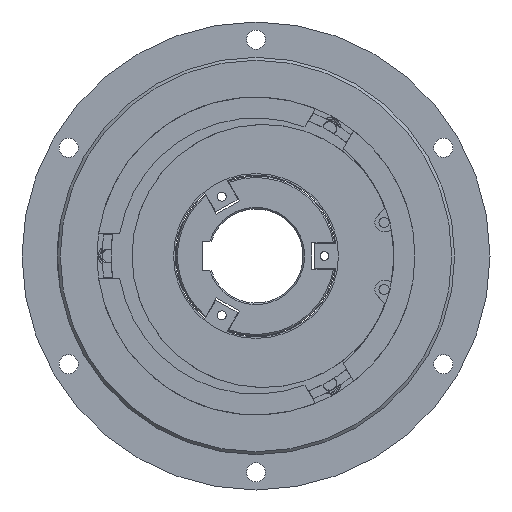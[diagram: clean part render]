
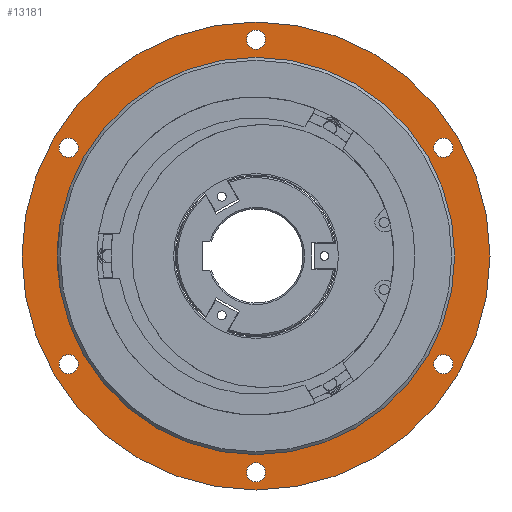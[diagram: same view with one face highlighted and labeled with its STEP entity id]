
A CAD part, left-side view. The second image highlights one B-rep face of the part: STEP entity #13181.
In plain terms, the highlighted planar face has unit normal (-1, 0, 0).
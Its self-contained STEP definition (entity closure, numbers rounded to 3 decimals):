
#343=FACE_BOUND('',#1752,.T.);
#344=FACE_BOUND('',#1753,.T.);
#345=FACE_BOUND('',#1754,.T.);
#346=FACE_BOUND('',#1755,.T.);
#347=FACE_BOUND('',#1756,.T.);
#348=FACE_BOUND('',#1757,.T.);
#349=FACE_BOUND('',#1758,.T.);
#1024=FACE_OUTER_BOUND('',#1751,.T.);
#1751=EDGE_LOOP('',(#9204,#9205));
#1752=EDGE_LOOP('',(#9206));
#1753=EDGE_LOOP('',(#9207));
#1754=EDGE_LOOP('',(#9208));
#1755=EDGE_LOOP('',(#9209));
#1756=EDGE_LOOP('',(#9210));
#1757=EDGE_LOOP('',(#9211));
#1758=EDGE_LOOP('',(#9212,#9213));
#2729=CIRCLE('',#14065,79.5);
#2730=CIRCLE('',#14066,79.5);
#2731=CIRCLE('',#14067,3.25);
#2732=CIRCLE('',#14068,3.25);
#2733=CIRCLE('',#14069,3.25);
#2734=CIRCLE('',#14070,3.25);
#2735=CIRCLE('',#14071,3.25);
#2736=CIRCLE('',#14072,3.25);
#2737=CIRCLE('',#14073,67.5);
#2738=CIRCLE('',#14074,67.5);
#5295=VERTEX_POINT('',#33384);
#5296=VERTEX_POINT('',#33385);
#5297=VERTEX_POINT('',#33388);
#5298=VERTEX_POINT('',#33390);
#5299=VERTEX_POINT('',#33392);
#5300=VERTEX_POINT('',#33394);
#5301=VERTEX_POINT('',#33396);
#5302=VERTEX_POINT('',#33398);
#5303=VERTEX_POINT('',#33400);
#5304=VERTEX_POINT('',#33401);
#6794=EDGE_CURVE('',#5295,#5296,#2729,.T.);
#6795=EDGE_CURVE('',#5296,#5295,#2730,.T.);
#6796=EDGE_CURVE('',#5297,#5297,#2731,.T.);
#6797=EDGE_CURVE('',#5298,#5298,#2732,.T.);
#6798=EDGE_CURVE('',#5299,#5299,#2733,.T.);
#6799=EDGE_CURVE('',#5300,#5300,#2734,.T.);
#6800=EDGE_CURVE('',#5301,#5301,#2735,.T.);
#6801=EDGE_CURVE('',#5302,#5302,#2736,.T.);
#6802=EDGE_CURVE('',#5303,#5304,#2737,.T.);
#6803=EDGE_CURVE('',#5304,#5303,#2738,.T.);
#9204=ORIENTED_EDGE('',*,*,#6794,.F.);
#9205=ORIENTED_EDGE('',*,*,#6795,.F.);
#9206=ORIENTED_EDGE('',*,*,#6796,.T.);
#9207=ORIENTED_EDGE('',*,*,#6797,.T.);
#9208=ORIENTED_EDGE('',*,*,#6798,.T.);
#9209=ORIENTED_EDGE('',*,*,#6799,.T.);
#9210=ORIENTED_EDGE('',*,*,#6800,.T.);
#9211=ORIENTED_EDGE('',*,*,#6801,.T.);
#9212=ORIENTED_EDGE('',*,*,#6802,.T.);
#9213=ORIENTED_EDGE('',*,*,#6803,.T.);
#12284=PLANE('',#14064);
#13181=ADVANCED_FACE('',(#1024,#343,#344,#345,#346,#347,#348,#349),#12284,
 .T.);
#14064=AXIS2_PLACEMENT_3D('',#33383,#15953,#15954);
#14065=AXIS2_PLACEMENT_3D('',#33386,#15955,#15956);
#14066=AXIS2_PLACEMENT_3D('',#33387,#15957,#15958);
#14067=AXIS2_PLACEMENT_3D('',#33389,#15959,#15960);
#14068=AXIS2_PLACEMENT_3D('',#33391,#15961,#15962);
#14069=AXIS2_PLACEMENT_3D('',#33393,#15963,#15964);
#14070=AXIS2_PLACEMENT_3D('',#33395,#15965,#15966);
#14071=AXIS2_PLACEMENT_3D('',#33397,#15967,#15968);
#14072=AXIS2_PLACEMENT_3D('',#33399,#15969,#15970);
#14073=AXIS2_PLACEMENT_3D('',#33402,#15971,#15972);
#14074=AXIS2_PLACEMENT_3D('',#33403,#15973,#15974);
#15953=DIRECTION('center_axis',(-1.,0.,0.));
#15954=DIRECTION('ref_axis',(0.,0.,
1.));
#15955=DIRECTION('center_axis',(1.,0.,0.));
#15956=DIRECTION('ref_axis',(0.,1.,0.));
#15957=DIRECTION('center_axis',(1.,0.,0.));
#15958=DIRECTION('ref_axis',(0.,1.,0.));
#15959=DIRECTION('center_axis',(1.,0.,0.));
#15960=DIRECTION('ref_axis',(0.,0.,
-1.));
#15961=DIRECTION('center_axis',(1.,0.,0.));
#15962=DIRECTION('ref_axis',(0.,0.,
-1.));
#15963=DIRECTION('center_axis',(1.,0.,0.));
#15964=DIRECTION('ref_axis',(0.,0.,
-1.));
#15965=DIRECTION('center_axis',(1.,0.,0.));
#15966=DIRECTION('ref_axis',(0.,0.,
-1.));
#15967=DIRECTION('center_axis',(1.,0.,0.));
#15968=DIRECTION('ref_axis',(0.,0.,
-1.));
#15969=DIRECTION('center_axis',(1.,0.,0.));
#15970=DIRECTION('ref_axis',(0.,0.,
-1.));
#15971=DIRECTION('center_axis',(1.,0.,0.));
#15972=DIRECTION('ref_axis',(0.,1.,0.));
#15973=DIRECTION('center_axis',(1.,0.,0.));
#15974=DIRECTION('ref_axis',(0.,1.,0.));
#33383=CARTESIAN_POINT('Origin',(7.,68.5,0.));
#33384=CARTESIAN_POINT('',(7.,79.5,0.));
#33385=CARTESIAN_POINT('',(7.,-79.5,0.));
#33386=CARTESIAN_POINT('Origin',(7.,0.,0.));
#33387=CARTESIAN_POINT('Origin',(7.,0.,0.));
#33388=CARTESIAN_POINT('',(7.,-63.653,-33.5));
#33389=CARTESIAN_POINT('Origin',(7.,-63.653,-36.75));
#33390=CARTESIAN_POINT('',(7.,0.,-70.25));
#33391=CARTESIAN_POINT('Origin',(7.,0.,-73.5));
#33392=CARTESIAN_POINT('',(7.,63.653,-33.5));
#33393=CARTESIAN_POINT('Origin',(7.,63.653,-36.75));
#33394=CARTESIAN_POINT('',(7.,63.653,40.));
#33395=CARTESIAN_POINT('Origin',(7.,63.653,36.75));
#33396=CARTESIAN_POINT('',(7.,0.,76.75));
#33397=CARTESIAN_POINT('Origin',(7.,0.,73.5));
#33398=CARTESIAN_POINT('',(7.,-63.653,40.));
#33399=CARTESIAN_POINT('Origin',(7.,-63.653,36.75));
#33400=CARTESIAN_POINT('',(7.,67.5,0.));
#33401=CARTESIAN_POINT('',(7.,-67.5,0.));
#33402=CARTESIAN_POINT('Origin',(7.,0.,0.));
#33403=CARTESIAN_POINT('Origin',(7.,0.,0.));
